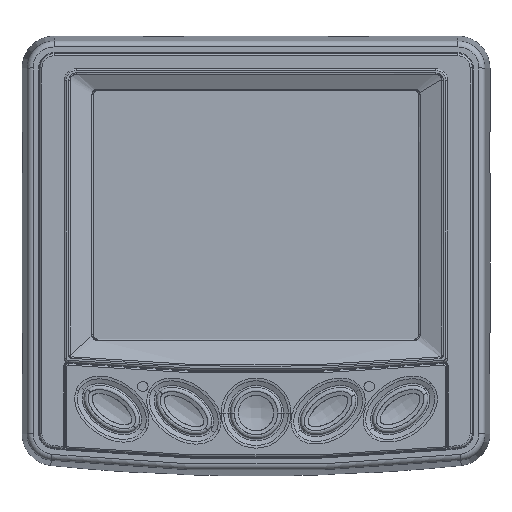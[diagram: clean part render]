
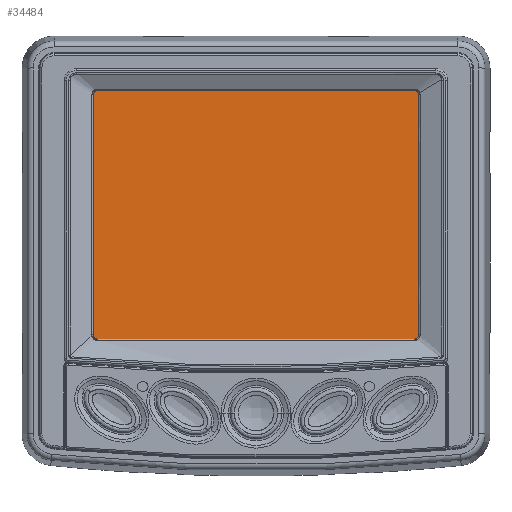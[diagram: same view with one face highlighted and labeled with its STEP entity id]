
A CAD part, top view. The second image highlights one B-rep face of the part: STEP entity #34484.
In plain terms, the highlighted planar face has unit normal (0, 0, 1).
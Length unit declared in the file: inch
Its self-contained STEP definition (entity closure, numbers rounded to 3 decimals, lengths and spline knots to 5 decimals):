
#3609 = CIRCLE ( 'NONE', #37413, 0.04006 ) ;
#5477 = CARTESIAN_POINT ( 'NONE',  ( -1.55906, -0.38287, 0.77362 ) ) ;
#5478 = DIRECTION ( 'NONE',  ( 0., 0., -1. ) ) ;
#5479 = DIRECTION ( 'NONE',  ( 1., 0., 0. ) ) ;
#5957 = AXIS2_PLACEMENT_3D ( 'NONE', #5477, #5478, #5479 ) ;
#6762 = VERTEX_POINT ( 'NONE', #12610 ) ;
#6799 = VERTEX_POINT ( 'NONE', #11878 ) ;
#6802 = VERTEX_POINT ( 'NONE', #12673 ) ;
#6805 = VERTEX_POINT ( 'NONE', #12389 ) ;
#6806 = VERTEX_POINT ( 'NONE', #12647 ) ;
#6809 = VERTEX_POINT ( 'NONE', #12171 ) ;
#6810 = VERTEX_POINT ( 'NONE', #11977 ) ;
#6813 = VERTEX_POINT ( 'NONE', #12629 ) ;
#7708 = EDGE_CURVE ( 'NONE', #6805, #6799, #11095, .T. ) ;
#8233 = EDGE_CURVE ( 'NONE', #6802, #6805, #67125, .T. ) ;
#8683 = CARTESIAN_POINT ( 'NONE',  ( 1.55906, -0.38287, 0.77362 ) ) ;
#8684 = DIRECTION ( 'NONE',  ( 0., 0., -1. ) ) ;
#8685 = DIRECTION ( 'NONE',  ( 1., 0., 0. ) ) ;
#10537 = EDGE_LOOP ( 'NONE', ( #28390, #28391, #28392, #28394, #28395, #28396, #28397, #28398 ) ) ;
#11095 = LINE ( 'NONE', #69787, #11096 ) ;
#11096 = VECTOR ( 'NONE', #69824, 39.37008 ) ;
#11878 = CARTESIAN_POINT ( 'NONE',  ( 1.59911, -0.38287, 0.77362 ) ) ;
#11977 = CARTESIAN_POINT ( 'NONE',  ( -1.55906, -0.42293, 0.77362 ) ) ;
#12171 = CARTESIAN_POINT ( 'NONE',  ( -1.55906, 2.01939, 0.77362 ) ) ;
#12389 = CARTESIAN_POINT ( 'NONE',  ( 1.59911, 1.97933, 0.77362 ) ) ;
#12610 = CARTESIAN_POINT ( 'NONE',  ( 1.55906, -0.42293, 0.77362 ) ) ;
#12629 = CARTESIAN_POINT ( 'NONE',  ( -1.59911, -0.38287, 0.77362 ) ) ;
#12647 = CARTESIAN_POINT ( 'NONE',  ( -1.59911, 1.97933, 0.77362 ) ) ;
#12673 = CARTESIAN_POINT ( 'NONE',  ( 1.55906, 2.01939, 0.77362 ) ) ;
#18369 = LINE ( 'NONE', #19064, #18376 ) ;
#18376 = VECTOR ( 'NONE', #19119, 39.37008 ) ;
#19064 = CARTESIAN_POINT ( 'NONE',  ( 1.55906, 2.01939, 0.77362 ) ) ;
#19119 = DIRECTION ( 'NONE',  ( 1., 0., 0. ) ) ;
#21315 = AXIS2_PLACEMENT_3D ( 'NONE', #42530, #42534, #42535 ) ;
#28390 = ORIENTED_EDGE ( 'NONE', *, *, #38807, .F. ) ;
#28391 = ORIENTED_EDGE ( 'NONE', *, *, #7708, .F. ) ;
#28392 = ORIENTED_EDGE ( 'NONE', *, *, #8233, .F. ) ;
#28394 = ORIENTED_EDGE ( 'NONE', *, *, #39190, .F. ) ;
#28395 = ORIENTED_EDGE ( 'NONE', *, *, #65807, .F. ) ;
#28396 = ORIENTED_EDGE ( 'NONE', *, *, #37801, .F. ) ;
#28397 = ORIENTED_EDGE ( 'NONE', *, *, #38111, .F. ) ;
#28398 = ORIENTED_EDGE ( 'NONE', *, *, #37858, .F. ) ;
#34484 = ADVANCED_FACE ( 'NONE', ( #70714 ), #42532, .T. ) ;
#36574 = CARTESIAN_POINT ( 'NONE',  ( -1.59911, 1.97933, 0.77362 ) ) ;
#36575 = DIRECTION ( 'NONE',  ( 0., 1., 0. ) ) ;
#36842 = CARTESIAN_POINT ( 'NONE',  ( -1.55906, -0.42293, 0.77362 ) ) ;
#36860 = DIRECTION ( 'NONE',  ( -1., 0., 0. ) ) ;
#37413 = AXIS2_PLACEMENT_3D ( 'NONE', #8683, #8684, #8685 ) ;
#37712 = AXIS2_PLACEMENT_3D ( 'NONE', #51230, #51231, #51232 ) ;
#37801 = EDGE_CURVE ( 'NONE', #6813, #6806, #47775, .T. ) ;
#37858 = EDGE_CURVE ( 'NONE', #6762, #6810, #47948, .T. ) ;
#38111 = EDGE_CURVE ( 'NONE', #6810, #6813, #67736, .T. ) ;
#38807 = EDGE_CURVE ( 'NONE', #6799, #6762, #3609, .T. ) ;
#39190 = EDGE_CURVE ( 'NONE', #6809, #6802, #18369, .T. ) ;
#42530 = CARTESIAN_POINT ( 'NONE',  ( 1.98504, -1.35156, 0.77362 ) ) ;
#42532 = PLANE ( 'NONE',  #21315 ) ;
#42534 = DIRECTION ( 'NONE',  ( 0., 0., 1. ) ) ;
#42535 = DIRECTION ( 'NONE',  ( 1., 0., 0. ) ) ;
#44184 = CIRCLE ( 'NONE', #37712, 0.04006 ) ;
#47775 = LINE ( 'NONE', #36574, #47781 ) ;
#47781 = VECTOR ( 'NONE', #36575, 39.37008 ) ;
#47948 = LINE ( 'NONE', #36842, #47954 ) ;
#47954 = VECTOR ( 'NONE', #36860, 39.37008 ) ;
#51230 = CARTESIAN_POINT ( 'NONE',  ( -1.55906, 1.97933, 0.77362 ) ) ;
#51231 = DIRECTION ( 'NONE',  ( 0., 0., -1. ) ) ;
#51232 = DIRECTION ( 'NONE',  ( 1., 0., 0. ) ) ;
#59833 = CARTESIAN_POINT ( 'NONE',  ( 1.55906, 1.97933, 0.77362 ) ) ;
#59835 = DIRECTION ( 'NONE',  ( 0., 0., -1. ) ) ;
#59836 = DIRECTION ( 'NONE',  ( 1., 0., 0. ) ) ;
#64964 = AXIS2_PLACEMENT_3D ( 'NONE', #59833, #59835, #59836 ) ;
#65807 = EDGE_CURVE ( 'NONE', #6806, #6809, #44184, .T. ) ;
#67125 = CIRCLE ( 'NONE', #64964, 0.04006 ) ;
#67736 = CIRCLE ( 'NONE', #5957, 0.04006 ) ;
#69787 = CARTESIAN_POINT ( 'NONE',  ( 1.59911, -0.38287, 0.77362 ) ) ;
#69824 = DIRECTION ( 'NONE',  ( 0., -1., 0. ) ) ;
#70714 = FACE_OUTER_BOUND ( 'NONE', #10537, .T. ) ;
